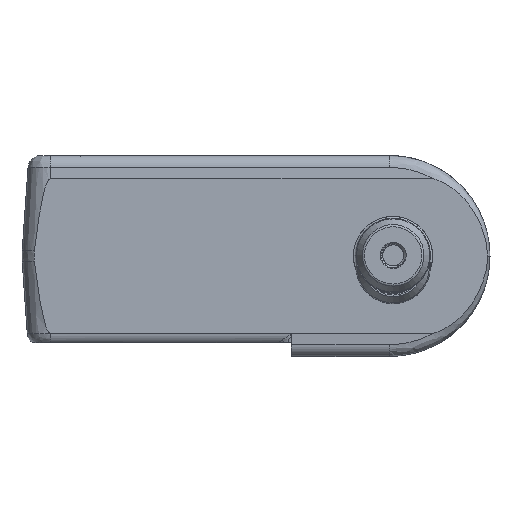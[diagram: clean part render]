
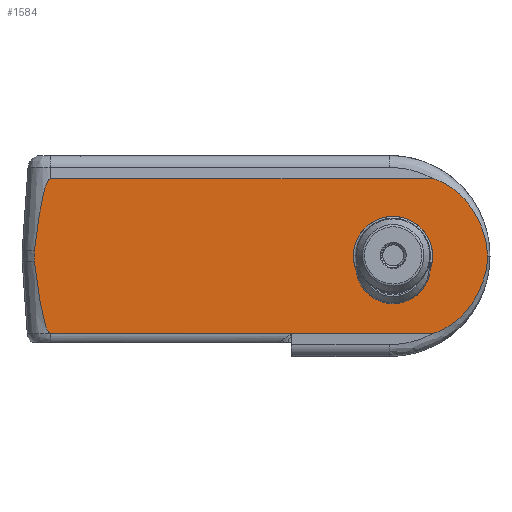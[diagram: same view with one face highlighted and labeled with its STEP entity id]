
A CAD part, front view. The second image highlights one B-rep face of the part: STEP entity #1584.
In plain terms, the highlighted planar face has unit normal (0, -1, 0).
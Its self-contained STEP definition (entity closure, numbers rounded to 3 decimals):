
#1584=ADVANCED_FACE('',(#2730,#2731),#2209,.F.);
#2209=PLANE('',#14375);
#2548=CIRCLE('',#14374,16.);
#2730=FACE_BOUND('',#3220,.T.);
#2731=FACE_BOUND('',#3221,.T.);
#3220=EDGE_LOOP('',(#6303));
#3221=EDGE_LOOP('',(#6304,#6305,#6306,#6307,#6308,#6309,#6310));
#3927=B_SPLINE_CURVE_WITH_KNOTS('',3,(#18784,#18785,#18786,#18787,#18788,
#18789,#18790,#18791,#18792,#18793,#18794,#18795,#18796,#18797),
 .UNSPECIFIED.,.F.,.F.,(4,2,2,2,2,2,4),(0.,0.031,0.062,
0.125,0.25,0.5,1.),.UNSPECIFIED.);
#3954=B_SPLINE_CURVE_WITH_KNOTS('',3,(#19106,#19107,#19108,#19109,#19110,
#19111,#19112,#19113,#19114,#19115,#19116,#19117,#19118,#19119),
 .UNSPECIFIED.,.F.,.F.,(4,2,2,2,2,2,4),(0.,0.5,0.75,0.875,0.938,
0.969,1.),.UNSPECIFIED.);
#4166=B_SPLINE_CURVE_WITH_KNOTS('',3,(#22075,#22076,#22077,#22078,#22079,
#22080,#22081,#22082,#22083,#22084,#22085,#22086,#22087,#22088),
 .UNSPECIFIED.,.F.,.F.,(4,2,2,2,2,2,4),(0.,0.5,0.75,
0.875,0.937,0.969,1.),.UNSPECIFIED.);
#4178=B_SPLINE_CURVE_WITH_KNOTS('',3,(#22252,#22253,#22254,#22255,#22256,
#22257,#22258,#22259,#22260,#22261,#22262,#22263,#22264,#22265),
 .UNSPECIFIED.,.F.,.F.,(4,2,2,2,2,2,4),(0.,0.031,0.062,
0.125,0.25,0.5,1.),.UNSPECIFIED.);
#4192=B_SPLINE_CURVE_WITH_KNOTS('',3,(#22586,#22587,#22588,#22589),
 .UNSPECIFIED.,.F.,.F.,(4,4),(0.,1.),.UNSPECIFIED.);
#6303=ORIENTED_EDGE('',*,*,#10909,.T.);
#6304=ORIENTED_EDGE('',*,*,#10404,.T.);
#6305=ORIENTED_EDGE('',*,*,#10910,.T.);
#6306=ORIENTED_EDGE('',*,*,#10844,.T.);
#6307=ORIENTED_EDGE('',*,*,#10836,.T.);
#6308=ORIENTED_EDGE('',*,*,#10872,.T.);
#6309=ORIENTED_EDGE('',*,*,#10440,.T.);
#6310=ORIENTED_EDGE('',*,*,#10361,.T.);
#9051=VERTEX_POINT('',#18685);
#9052=VERTEX_POINT('',#18686);
#9091=VERTEX_POINT('',#18783);
#9120=VERTEX_POINT('',#19120);
#9320=VERTEX_POINT('',#22048);
#9321=VERTEX_POINT('',#22049);
#9325=VERTEX_POINT('',#22089);
#9355=VERTEX_POINT('',#22585);
#10361=EDGE_CURVE('',#9051,#9052,#12213,.T.);
#10404=EDGE_CURVE('',#9052,#9091,#3927,.T.);
#10440=EDGE_CURVE('',#9120,#9051,#3954,.T.);
#10836=EDGE_CURVE('',#9320,#9321,#12390,.T.);
#10844=EDGE_CURVE('',#9325,#9320,#4166,.T.);
#10872=EDGE_CURVE('',#9321,#9120,#4178,.T.);
#10909=EDGE_CURVE('',#9355,#9355,#2548,.T.);
#10910=EDGE_CURVE('',#9091,#9325,#4192,.T.);
#12213=LINE('',#18684,#13072);
#12390=LINE('',#22047,#13301);
#13072=VECTOR('',#15053,1.);
#13301=VECTOR('',#15764,1.);
#14374=AXIS2_PLACEMENT_3D('',#22584,#15875,#15876);
#14375=AXIS2_PLACEMENT_3D('',#22590,#15877,#15878);
#15053=DIRECTION('',(-1.,0.,0.));
#15764=DIRECTION('',(1.,0.,0.));
#15875=DIRECTION('',(0.,1.,0.));
#15876=DIRECTION('',(1.,0.,0.));
#15877=DIRECTION('',(0.,1.,0.));
#15878=DIRECTION('',(0.,0.,1.));
#18684=CARTESIAN_POINT('',(10.907,-128.598,30.043));
#18685=CARTESIAN_POINT('',(165.193,-128.598,30.043));
#18686=CARTESIAN_POINT('',(10.907,-128.598,30.043));
#18783=CARTESIAN_POINT('',(4.424,-128.598,1.083));
#18784=CARTESIAN_POINT('',(10.907,-128.598,30.043));
#18785=CARTESIAN_POINT('',(10.586,-128.598,30.043));
#18786=CARTESIAN_POINT('',(10.312,-128.598,29.804));
#18787=CARTESIAN_POINT('',(9.904,-128.598,29.309));
#18788=CARTESIAN_POINT('',(9.743,-128.598,29.028));
#18789=CARTESIAN_POINT('',(9.311,-128.598,28.173));
#18790=CARTESIAN_POINT('',(9.088,-128.598,27.568));
#18791=CARTESIAN_POINT('',(8.488,-128.598,25.76));
#18792=CARTESIAN_POINT('',(8.182,-128.598,24.541));
#18793=CARTESIAN_POINT('',(7.343,-128.598,20.873));
#18794=CARTESIAN_POINT('',(6.903,-128.598,18.41));
#18795=CARTESIAN_POINT('',(5.688,-128.598,11.006));
#18796=CARTESIAN_POINT('',(5.034,-128.598,6.048));
#18797=CARTESIAN_POINT('',(4.424,-128.598,1.083));
#19106=CARTESIAN_POINT('',(187.097,-128.598,-1.01));
#19107=CARTESIAN_POINT('',(186.802,-128.598,5.754));
#19108=CARTESIAN_POINT('',(184.673,-128.598,12.351));
#19109=CARTESIAN_POINT('',(178.964,-128.598,20.762));
#19110=CARTESIAN_POINT('',(176.72,-128.598,23.238));
#19111=CARTESIAN_POINT('',(172.797,-128.598,26.419));
#19112=CARTESIAN_POINT('',(171.391,-128.598,27.39));
#19113=CARTESIAN_POINT('',(169.174,-128.598,28.634));
#19114=CARTESIAN_POINT('',(168.412,-128.598,29.016));
#19115=CARTESIAN_POINT('',(167.24,-128.598,29.509));
#19116=CARTESIAN_POINT('',(166.844,-128.598,29.66));
#19117=CARTESIAN_POINT('',(166.034,-128.598,29.916));
#19118=CARTESIAN_POINT('',(165.622,-128.598,30.042));
#19119=CARTESIAN_POINT('',(165.193,-128.598,30.043));
#19120=CARTESIAN_POINT('',(187.097,-128.598,-1.01));
#22047=CARTESIAN_POINT('',(10.907,-128.598,-32.063));
#22048=CARTESIAN_POINT('',(10.907,-128.598,-32.063));
#22049=CARTESIAN_POINT('',(165.193,-128.598,-32.063));
#22075=CARTESIAN_POINT('',(4.424,-128.598,-3.103));
#22076=CARTESIAN_POINT('',(5.036,-128.598,-8.084));
#22077=CARTESIAN_POINT('',(5.692,-128.598,-13.06));
#22078=CARTESIAN_POINT('',(6.913,-128.598,-20.485));
#22079=CARTESIAN_POINT('',(7.354,-128.598,-22.954));
#22080=CARTESIAN_POINT('',(8.199,-128.598,-26.629));
#22081=CARTESIAN_POINT('',(8.507,-128.598,-27.847));
#22082=CARTESIAN_POINT('',(9.104,-128.598,-29.631));
#22083=CARTESIAN_POINT('',(9.324,-128.598,-30.223));
#22084=CARTESIAN_POINT('',(9.754,-128.598,-31.067));
#22085=CARTESIAN_POINT('',(9.912,-128.598,-31.339));
#22086=CARTESIAN_POINT('',(10.316,-128.598,-31.828));
#22087=CARTESIAN_POINT('',(10.588,-128.598,-32.063));
#22088=CARTESIAN_POINT('',(10.907,-128.598,-32.063));
#22089=CARTESIAN_POINT('',(4.424,-128.598,-3.103));
#22252=CARTESIAN_POINT('',(165.193,-128.598,-32.063));
#22253=CARTESIAN_POINT('',(165.632,-128.598,-32.062));
#22254=CARTESIAN_POINT('',(166.035,-128.598,-31.935));
#22255=CARTESIAN_POINT('',(166.842,-128.598,-31.68));
#22256=CARTESIAN_POINT('',(167.239,-128.598,-31.529));
#22257=CARTESIAN_POINT('',(168.418,-128.598,-31.034));
#22258=CARTESIAN_POINT('',(169.173,-128.598,-30.654));
#22259=CARTESIAN_POINT('',(171.377,-128.598,-29.419));
#22260=CARTESIAN_POINT('',(172.763,-128.598,-28.464));
#22261=CARTESIAN_POINT('',(176.713,-128.598,-25.267));
#22262=CARTESIAN_POINT('',(178.973,-128.598,-22.768));
#22263=CARTESIAN_POINT('',(184.645,-128.598,-14.413));
#22264=CARTESIAN_POINT('',(186.801,-128.598,-7.779));
#22265=CARTESIAN_POINT('',(187.097,-128.598,-1.01));
#22584=CARTESIAN_POINT('',(148.897,-128.598,-1.01));
#22585=CARTESIAN_POINT('',(164.897,-128.598,-1.01));
#22586=CARTESIAN_POINT('',(4.424,-128.598,1.083));
#22587=CARTESIAN_POINT('',(4.253,-128.598,-0.312));
#22588=CARTESIAN_POINT('',(4.253,-128.598,-1.707));
#22589=CARTESIAN_POINT('',(4.424,-128.598,-3.103));
#22590=CARTESIAN_POINT('',(-1.093,-128.598,49.47));
